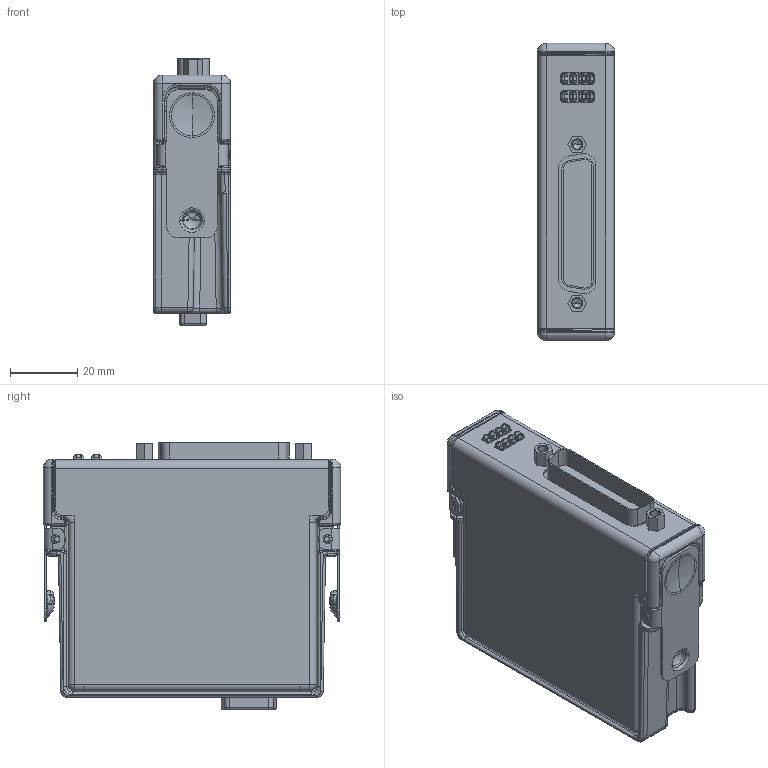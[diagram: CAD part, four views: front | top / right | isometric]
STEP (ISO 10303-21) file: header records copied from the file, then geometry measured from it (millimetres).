
FILE_DESCRIPTION((''),'2;1');
FILE_NAME('CART_CRIO_DB_25_LVL6','2007-01-24T',('chrisj'),(''),'PRO/ENGINEER BY PARAMETRIC TECHNOLOGY CORPORATION, 2006080','PRO/ENGINEER BY PARAMETRIC TECHNOLOGY CORPORATION, 2006080','');
FILE_SCHEMA(('AUTOMOTIVE_DESIGN_CC2 { 1 2 10303 214 -1 1 5 2 }'));
Products named in the file (1): CART_CRIO_DB_25_LVL6
Bounding box: 22.86 x 88.11 x 79.15 mm (x, y, z)
Volume: 46554.9 mm3; surface area: 49584.5 mm2
Topology: 13 solids, 13 shells, 1823 faces, 4329 edges, 2564 vertices
Faces by surface type: plane 635, cylinder 590, bspline 397, sphere 71, cone 64, torus 60, extrusion 6
Entity records: 74146 total; most frequent: CARTESIAN_POINT 35150, ORIENTED_EDGE 8506, DIRECTION 7305, EDGE_CURVE 4253, AXIS2_PLACEMENT_3D 2620, VERTEX_POINT 2602, VECTOR 2065, LINE 2059
